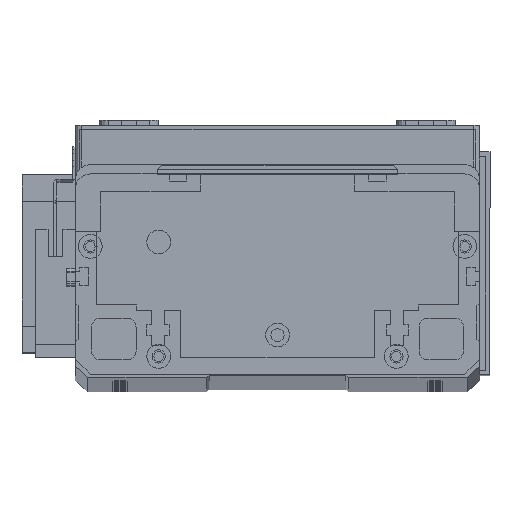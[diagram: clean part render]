
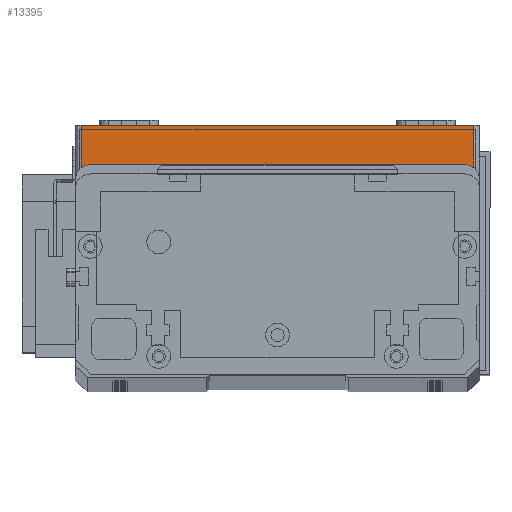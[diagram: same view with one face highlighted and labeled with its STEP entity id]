
A CAD part, top view. The second image highlights one B-rep face of the part: STEP entity #13395.
In plain terms, the highlighted planar face has unit normal (0, 0, 1) as drawn and (0, -1, 0) by its records, which use the part's own axes.
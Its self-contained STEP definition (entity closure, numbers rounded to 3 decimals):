
#1823 = DIRECTION ( 'NONE',  ( 1., 0., 0. ) ) ;
#3115 = CARTESIAN_POINT ( 'NONE',  ( 134., 0., 19.5 ) ) ;
#3542 = LINE ( 'NONE', #6119, #9898 ) ;
#4532 = LINE ( 'NONE', #8794, #29951 ) ;
#4832 = CARTESIAN_POINT ( 'NONE',  ( 0., 0., 19.5 ) ) ;
#6119 = CARTESIAN_POINT ( 'NONE',  ( 0., 0., 19.5 ) ) ;
#6184 = ORIENTED_EDGE ( 'NONE', *, *, #17674, .T. ) ;
#6258 = VERTEX_POINT ( 'NONE', #23864 ) ;
#7307 = DIRECTION ( 'NONE',  ( 0., 1., 0. ) ) ;
#8794 = CARTESIAN_POINT ( 'NONE',  ( 2., 0., 19.5 ) ) ;
#9898 = VECTOR ( 'NONE', #10919, 1000. ) ;
#10007 = EDGE_CURVE ( 'NONE', #30420, #6258, #3542, .T. ) ;
#10919 = DIRECTION ( 'NONE',  ( 1., 0., 0. ) ) ;
#11213 = DIRECTION ( 'NONE',  ( 0., 0., -1. ) ) ;
#11284 = ORIENTED_EDGE ( 'NONE', *, *, #19261, .T. ) ;
#11943 = ORIENTED_EDGE ( 'NONE', *, *, #28252, .T. ) ;
#12278 = VERTEX_POINT ( 'NONE', #25138 ) ;
#13395 = ADVANCED_FACE ( 'NONE', ( #24073 ), #16737, .F. ) ;
#13771 = VECTOR ( 'NONE', #22255, 1000. ) ;
#15803 = VERTEX_POINT ( 'NONE', #27807 ) ;
#16737 = PLANE ( 'NONE',  #26843 ) ;
#17069 = LINE ( 'NONE', #18556, #29044 ) ;
#17674 = EDGE_CURVE ( 'NONE', #12278, #6258, #26471, .T. ) ;
#18556 = CARTESIAN_POINT ( 'NONE',  ( 0., 0., 0. ) ) ;
#19261 = EDGE_CURVE ( 'NONE', #30420, #15803, #4532, .T. ) ;
#22255 = DIRECTION ( 'NONE',  ( 0., 0., 1. ) ) ;
#23864 = CARTESIAN_POINT ( 'NONE',  ( 134., 0., 19.5 ) ) ;
#24061 = DIRECTION ( 'NONE',  ( 0., 0., 1. ) ) ;
#24073 = FACE_OUTER_BOUND ( 'NONE', #30852, .T. ) ;
#25138 = CARTESIAN_POINT ( 'NONE',  ( 134., 0., 0. ) ) ;
#26471 = LINE ( 'NONE', #3115, #13771 ) ;
#26843 = AXIS2_PLACEMENT_3D ( 'NONE', #4832, #7307, #24061 ) ;
#27807 = CARTESIAN_POINT ( 'NONE',  ( 2., 0., 0. ) ) ;
#28106 = ORIENTED_EDGE ( 'NONE', *, *, #10007, .F. ) ;
#28252 = EDGE_CURVE ( 'NONE', #15803, #12278, #17069, .T. ) ;
#28593 = CARTESIAN_POINT ( 'NONE',  ( 2., 0., 19.5 ) ) ;
#29044 = VECTOR ( 'NONE', #1823, 1000. ) ;
#29951 = VECTOR ( 'NONE', #11213, 1000. ) ;
#30420 = VERTEX_POINT ( 'NONE', #28593 ) ;
#30852 = EDGE_LOOP ( 'NONE', ( #28106, #11284, #11943, #6184 ) ) ;
